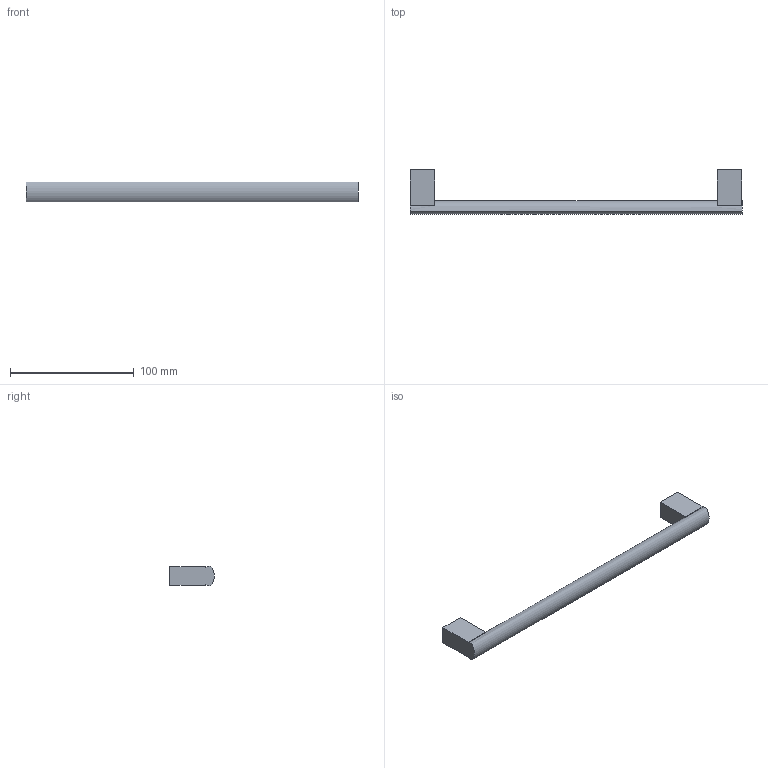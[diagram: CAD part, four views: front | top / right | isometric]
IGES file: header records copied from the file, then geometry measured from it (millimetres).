
Start section: Data from Parasolid IGES Translator 20.0.26, Copyright(c) 2006 Siemens P LM Software. All Rights Reserved.
Global section: file name: 115207.igs; native system: By Siemens PLM Incorporated; preprocessor: XPlus GENERIC/IGES 20.0.26; author: Noname; organization: Noname; date: 20230220.161230; units: millimetre
Bounding box: 268 x 35.96 x 16 mm (x, y, z)
Surface area: 15761.1 mm2 (no closed solid volume)
Topology: 0 solids, 0 shells, 22 faces, 102 edges, 100 vertices
Faces by surface type: extrusion 17, revolution 5
